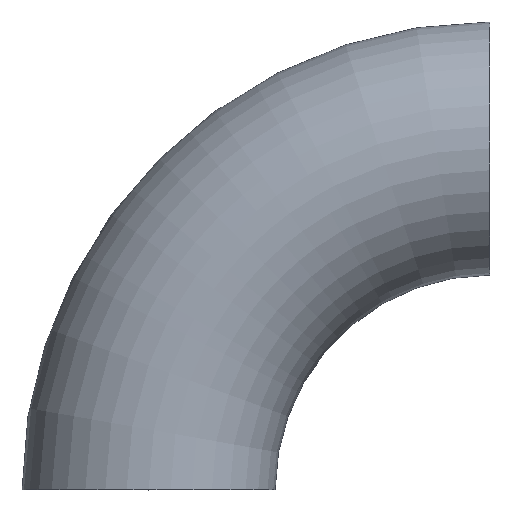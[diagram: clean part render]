
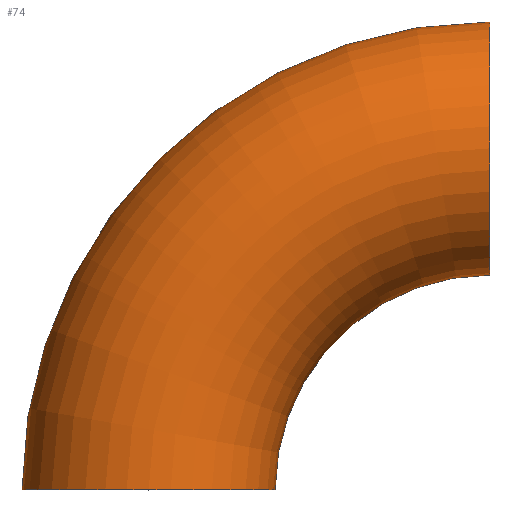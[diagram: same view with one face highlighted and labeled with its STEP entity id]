
A CAD part, top view. The second image highlights one B-rep face of the part: STEP entity #74.
In plain terms, the highlighted toroidal (fillet/blend) face has major radius 60 mm and minor radius 22.25 mm.
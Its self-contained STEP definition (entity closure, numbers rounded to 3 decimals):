
#3 = DIRECTION ( 'NONE',  ( 0., 0., 1. ) ) ;
#8 = VERTEX_POINT ( 'NONE', #141 ) ;
#15 = AXIS2_PLACEMENT_3D ( 'NONE', #171, #186, #96 ) ;
#17 = CARTESIAN_POINT ( 'NONE',  ( 60., 0., 0. ) ) ;
#20 = AXIS2_PLACEMENT_3D ( 'NONE', #106, #216, #85 ) ;
#37 = VERTEX_POINT ( 'NONE', #48 ) ;
#38 = ORIENTED_EDGE ( 'NONE', *, *, #90, .F. ) ;
#39 = EDGE_CURVE ( 'NONE', #37, #8, #102, .T. ) ;
#44 = AXIS2_PLACEMENT_3D ( 'NONE', #158, #3, #55 ) ;
#48 = CARTESIAN_POINT ( 'NONE',  ( 60., 82.25, 0. ) ) ;
#55 = DIRECTION ( 'NONE',  ( 1., 0., 0. ) ) ;
#56 = VERTEX_POINT ( 'NONE', #79 ) ;
#63 = DIRECTION ( 'NONE',  ( 0., 0., 1. ) ) ;
#74 = ADVANCED_FACE ( 'NONE', ( #193 ), #145, .T. ) ;
#79 = CARTESIAN_POINT ( 'NONE',  ( 22.25, 0., 0. ) ) ;
#85 = DIRECTION ( 'NONE',  ( 0., 0., 1. ) ) ;
#90 = EDGE_CURVE ( 'NONE', #111, #56, #200, .T. ) ;
#96 = DIRECTION ( 'NONE',  ( 0., 0., 1. ) ) ;
#102 = CIRCLE ( 'NONE', #44, 82.25 ) ;
#106 = CARTESIAN_POINT ( 'NONE',  ( 60., 60., 0. ) ) ;
#108 = EDGE_LOOP ( 'NONE', ( #121, #117, #213, #38 ) ) ;
#111 = VERTEX_POINT ( 'NONE', #212 ) ;
#117 = ORIENTED_EDGE ( 'NONE', *, *, #39, .T. ) ;
#121 = ORIENTED_EDGE ( 'NONE', *, *, #163, .F. ) ;
#122 = AXIS2_PLACEMENT_3D ( 'NONE', #17, #63, #152 ) ;
#139 = AXIS2_PLACEMENT_3D ( 'NONE', #201, #237, #251 ) ;
#141 = CARTESIAN_POINT ( 'NONE',  ( -22.25, 0., 0. ) ) ;
#145 = TOROIDAL_SURFACE ( 'NONE', #139, 60., 22.25 ) ;
#152 = DIRECTION ( 'NONE',  ( 1., 0., 0. ) ) ;
#158 = CARTESIAN_POINT ( 'NONE',  ( 60., 0., 0. ) ) ;
#163 = EDGE_CURVE ( 'NONE', #37, #111, #238, .T. ) ;
#171 = CARTESIAN_POINT ( 'NONE',  ( 0., 0., 0. ) ) ;
#186 = DIRECTION ( 'NONE',  ( 0., 1., 0. ) ) ;
#193 = FACE_OUTER_BOUND ( 'NONE', #108, .T. ) ;
#200 = CIRCLE ( 'NONE', #122, 37.75 ) ;
#201 = CARTESIAN_POINT ( 'NONE',  ( 60., 0., 0. ) ) ;
#212 = CARTESIAN_POINT ( 'NONE',  ( 60., 37.75, 0. ) ) ;
#213 = ORIENTED_EDGE ( 'NONE', *, *, #229, .T. ) ;
#216 = DIRECTION ( 'NONE',  ( 1., 0., 0. ) ) ;
#228 = CIRCLE ( 'NONE', #15, 22.25 ) ;
#229 = EDGE_CURVE ( 'NONE', #8, #56, #228, .T. ) ;
#237 = DIRECTION ( 'NONE',  ( 0., 0., 1. ) ) ;
#238 = CIRCLE ( 'NONE', #20, 22.25 ) ;
#251 = DIRECTION ( 'NONE',  ( 1., 0., 0. ) ) ;
